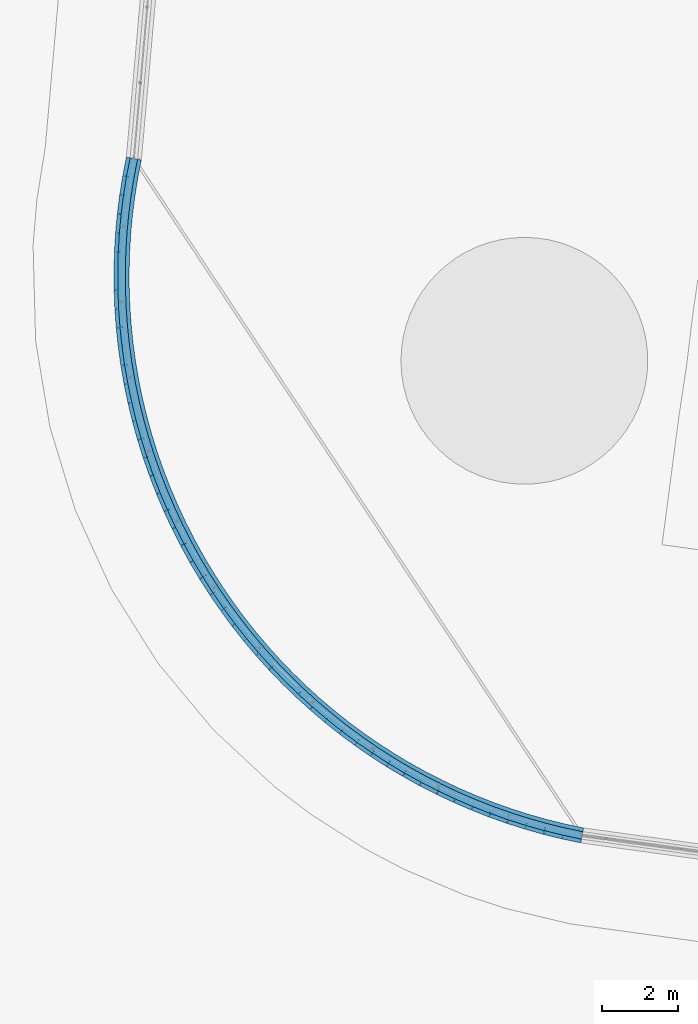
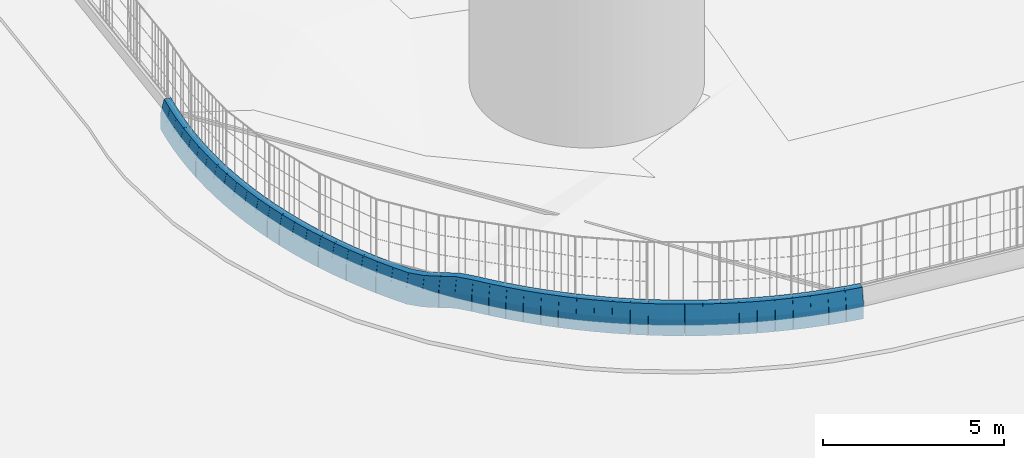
# Not in any storey, part 20 of 75: 1 wall.
"""IFC4 model written with IfcOpenShell, lengths in metres."""

from ifc_helpers import new_model, si_unit, direction, origin, origin_with_axes, place, context, subcontext, project, spatial, triangles, element, save


model = new_model("IFC4")

# Units and contexts
model_context = context("Model", 3, precision=1e-05, world=origin_with_axes(), true_north=direction((0.0, 1.0)))
body_context = subcontext(model_context, "Body", "Model", "MODEL_VIEW")
ifc_project = project(units=[si_unit("AREAUNIT", "SQUARE_METRE"), si_unit("VOLUMEUNIT", "CUBIC_METRE"), si_unit("LENGTHUNIT", "METRE")], contexts=[model_context])

# Site
site_placement = place(None, origin_with_axes())
site = spatial("IfcSite", under=ifc_project, at=site_placement, Name="Parcela industrial Jinhong")

# Wall
wall_placement = place(None, origin())
element("IfcWall", 1, at=wall_placement, inside=site, Name="Basamento de vallado · Curva suroeste", ObjectType="Hormigón prefabricado", PredefinedType="USERDEFINED", context=body_context, shape_type="Tessellation", body=[
    triangles([(6.063662, 19.303614, 0.248939), (5.980727, 18.912307, 0.248939), (5.980727, 18.912307, 0.798939), (6.001461, 19.010133, 1.248939), (6.042928, 19.205787, 1.248939), (6.063662, 19.303614, 0.798939), (5.578613, 19.406417, 0.24913), (5.495678, 19.015109, 0.24913), (5.495678, 19.015109, 0.79913), (5.516412, 19.112936, 1.24913), (5.557879, 19.30859, 1.24913), (5.578613, 19.406417, 0.79913)], [[1, 2, 7], [7, 2, 8], [8, 2, 3], [3, 9, 8], [10, 9, 3], [3, 4, 10], [6, 2, 1], [6, 3, 2], [5, 4, 6], [4, 3, 6], [1, 7, 6], [7, 12, 6], [11, 7, 8], [8, 9, 11], [11, 9, 10], [11, 12, 7], [11, 4, 5], [10, 4, 11], [5, 6, 11], [11, 6, 12]], closed=True),
    triangles([(5.585058, 19.404939, 0.24913), (5.489233, 19.016587, 0.24913), (5.489233, 19.016587, 0.79913), (5.513189, 19.113675, 1.24913), (5.561102, 19.307851, 1.24913), (5.585058, 19.404939, 0.79913), (5.103672, 19.52372, 0.249607), (5.007847, 19.135367, 0.249607), (5.007847, 19.135367, 0.799607), (5.031803, 19.232455, 1.249607), (5.079716, 19.426631, 1.249607), (5.103672, 19.52372, 0.799607)], [[7, 2, 8], [1, 2, 7], [8, 2, 3], [3, 9, 8], [10, 9, 3], [3, 4, 10], [8, 9, 12], [12, 7, 8], [12, 9, 10], [10, 11, 12], [1, 7, 12], [12, 6, 1], [5, 2, 1], [5, 3, 2], [4, 3, 5], [1, 6, 5], [5, 11, 10], [10, 4, 5], [5, 12, 11], [6, 12, 5]], closed=True),
    triangles([(5.110064, 19.52203, 0.249607), (5.001455, 19.137057, 0.249607), (5.001455, 19.137057, 0.799607), (5.028607, 19.2333, 1.249607), (5.082912, 19.425787, 1.249607), (5.110064, 19.52203, 0.799607), (4.632868, 19.656658, 0.25), (4.524258, 19.271685, 0.25), (4.524258, 19.271685, 0.8), (4.551411, 19.367928, 1.25), (4.605715, 19.560414, 1.25), (4.632868, 19.656658, 0.8)], [[7, 2, 8], [1, 2, 7], [8, 2, 9], [2, 3, 9], [9, 3, 4], [9, 4, 10], [6, 3, 2], [6, 2, 1], [4, 3, 6], [6, 5, 4], [4, 5, 11], [10, 4, 11], [12, 7, 8], [8, 9, 12], [12, 9, 10], [10, 11, 12], [1, 7, 12], [12, 6, 1], [5, 6, 12], [12, 11, 5]], closed=True),
    triangles([(4.639201, 19.654757, 0.25), (4.517925, 19.273585, 0.25), (4.517925, 19.273585, 0.8), (4.548244, 19.368878, 1.25), (4.608882, 19.559464, 1.25), (4.639201, 19.654757, 0.8), (4.166715, 19.805086, 0.25), (4.04544, 19.423913, 0.25), (4.04544, 19.423913, 0.8), (4.075759, 19.519206, 1.25), (4.136396, 19.709793, 1.25), (4.166715, 19.805086, 0.8)], [[1, 2, 7], [7, 2, 8], [11, 10, 5], [5, 10, 4], [2, 3, 9], [8, 2, 9], [9, 3, 4], [4, 10, 9], [6, 3, 2], [6, 2, 1], [4, 3, 6], [6, 5, 4], [12, 7, 8], [8, 9, 12], [12, 10, 11], [12, 9, 10], [11, 5, 12], [5, 6, 12], [1, 7, 12], [12, 6, 1]], closed=True),
    triangles([(4.172982, 19.802977, 0.25), (4.039173, 19.426022, 0.25), (4.039173, 19.426022, 0.8), (4.072625, 19.520261, 1.25), (4.13953, 19.708738, 1.25), (4.172982, 19.802977, 0.8), (3.705724, 19.968842, 0.25), (3.571915, 19.591887, 0.25), (3.571915, 19.591887, 0.8), (3.605367, 19.686125, 1.25), (3.672272, 19.874603, 1.25), (3.705724, 19.968842, 0.8)], [[1, 2, 7], [7, 2, 8], [11, 10, 5], [5, 10, 4], [2, 3, 9], [8, 2, 9], [9, 3, 4], [4, 10, 9], [6, 3, 2], [6, 2, 1], [4, 3, 6], [6, 5, 4], [12, 7, 8], [8, 9, 12], [12, 10, 11], [12, 9, 10], [11, 5, 12], [5, 6, 12], [1, 7, 12], [12, 6, 1]], closed=True),
    triangles([(3.711918, 19.966527, 0.25), (3.565721, 19.594201, 0.25), (3.565721, 19.594201, 0.8), (3.60227, 19.687283, 1.25), (3.675369, 19.873445, 1.25), (3.711918, 19.966527, 0.8), (3.250398, 20.147746, 0.25), (3.104201, 19.775421, 0.25), (3.104201, 19.775421, 0.8), (3.14075, 19.868502, 1.25), (3.213849, 20.054665, 1.25), (3.250398, 20.147746, 0.8)], [[1, 2, 7], [7, 2, 8], [11, 10, 5], [5, 10, 4], [2, 3, 9], [8, 2, 9], [9, 3, 4], [4, 10, 9], [12, 7, 8], [8, 9, 12], [12, 10, 11], [12, 9, 10], [6, 3, 2], [6, 2, 1], [4, 3, 6], [6, 5, 4], [1, 7, 6], [7, 12, 6], [11, 5, 6], [6, 12, 11]], closed=True),
    triangles([(3.256512, 20.145228, 0.25), (3.098087, 19.777939, 0.25), (3.098087, 19.777939, 0.8), (3.137694, 19.869761, 1.25), (3.216906, 20.053406, 1.25), (3.256512, 20.145228, 0.8), (2.801234, 20.341605, 0.25), (2.64281, 19.974315, 0.25), (2.64281, 19.974315, 0.8), (2.682416, 20.066137, 1.25), (2.761628, 20.249782, 1.25), (2.801234, 20.341605, 0.8)], [[1, 2, 7], [7, 2, 8], [11, 10, 5], [5, 10, 4], [2, 3, 9], [8, 2, 9], [9, 3, 4], [4, 10, 9], [12, 7, 8], [8, 9, 12], [12, 10, 11], [12, 9, 10], [6, 3, 2], [6, 2, 1], [4, 3, 6], [6, 5, 4], [1, 7, 6], [7, 12, 6], [11, 5, 6], [6, 12, 11]], closed=True),
    triangles([(2.807262, 20.338886, 0.25), (2.636783, 19.977034, 0.25), (2.636783, 19.977034, 0.8), (2.679403, 20.067497, 1.25), (2.764642, 20.248423, 1.25), (2.807262, 20.338886, 0.8), (2.358724, 20.550204, 0.25), (2.188246, 20.188352, 0.25), (2.188246, 20.188352, 0.8), (2.230865, 20.278815, 1.25), (2.316105, 20.459741, 1.25), (2.358724, 20.550204, 0.8)], [[1, 2, 7], [7, 2, 8], [11, 10, 5], [5, 10, 4], [2, 3, 9], [8, 2, 9], [9, 3, 4], [4, 10, 9], [12, 7, 8], [8, 9, 12], [12, 10, 11], [12, 9, 10], [6, 3, 2], [6, 2, 1], [4, 3, 6], [6, 5, 4], [1, 7, 6], [7, 12, 6], [11, 5, 6], [6, 12, 11]], closed=True),
    triangles([(2.364658, 20.547288, 0.25), (2.182312, 20.191269, 0.25), (2.182312, 20.191269, 0.8), (2.227898, 20.280273, 1.25), (2.319072, 20.458283, 1.25), (2.364658, 20.547288, 0.8), (1.923352, 20.773317, 0.25), (1.741005, 20.417298, 0.25), (1.741005, 20.417298, 0.8), (1.786591, 20.506303, 1.25), (1.877765, 20.684313, 1.25), (1.923352, 20.773317, 0.8)], [[1, 2, 7], [7, 2, 8], [11, 10, 5], [5, 10, 4], [2, 3, 9], [8, 2, 9], [9, 3, 4], [4, 10, 9], [6, 3, 2], [6, 2, 1], [4, 3, 6], [6, 5, 4], [12, 7, 8], [8, 9, 12], [12, 10, 11], [12, 9, 10], [11, 5, 12], [5, 6, 12], [1, 7, 12], [12, 6, 1]], closed=True),
    triangles([(1.929186, 20.770206, 0.25), (1.73517, 20.420409, 0.25), (1.73517, 20.420409, 0.8), (1.783674, 20.507859, 1.25), (1.880682, 20.682757, 1.25), (1.929186, 20.770206, 0.8), (1.495592, 21.0107, 0.25), (1.301576, 20.660903, 0.25), (1.301576, 20.660903, 0.8), (1.35008, 20.748353, 1.25), (1.447088, 20.923251, 1.25), (1.495592, 21.0107, 0.8)], [[1, 2, 7], [7, 2, 8], [8, 2, 9], [2, 3, 9], [10, 9, 4], [4, 9, 3], [6, 2, 1], [5, 4, 6], [6, 3, 2], [6, 4, 3], [1, 7, 6], [7, 12, 6], [11, 7, 8], [8, 9, 11], [11, 12, 7], [11, 9, 10], [11, 4, 5], [10, 4, 11], [5, 6, 11], [11, 6, 12]], closed=True),
    triangles([(1.50132, 21.007398, 0.25), (1.295848, 20.664206, 0.25), (1.295848, 20.664206, 0.8), (1.347216, 20.750004, 1.25), (1.449952, 20.9216, 1.25), (1.50132, 21.007398, 0.8), (1.075913, 21.262093, 0.25), (0.870441, 20.918901, 0.25), (0.870441, 20.918901, 0.8), (0.921809, 21.004699, 1.25), (1.024545, 21.176295, 1.25), (1.075913, 21.262093, 0.8)], [[1, 2, 7], [7, 2, 8], [11, 10, 5], [5, 10, 4], [2, 3, 9], [8, 2, 9], [9, 3, 4], [4, 10, 9], [12, 7, 8], [8, 9, 12], [12, 10, 11], [12, 9, 10], [6, 3, 2], [6, 2, 1], [4, 3, 6], [6, 5, 4], [1, 7, 6], [7, 12, 6], [11, 5, 6], [6, 12, 11]], closed=True),
    triangles([(1.081529, 21.258604, 0.25), (0.864824, 20.922391, 0.25), (0.864824, 20.922391, 0.8), (0.919001, 21.006444, 1.25), (1.027353, 21.17455, 1.25), (1.081529, 21.258604, 0.8), (0.664773, 21.527222, 0.25), (0.448069, 21.191009, 0.25), (0.448069, 21.191009, 0.8), (0.502245, 21.275062, 1.25), (0.610597, 21.443168, 1.25), (0.664773, 21.527222, 0.8)], [[2, 7, 1], [8, 7, 2], [4, 5, 11], [11, 10, 4], [1, 6, 3], [3, 2, 1], [3, 5, 4], [3, 6, 5], [10, 9, 3], [4, 10, 3], [8, 2, 3], [3, 9, 8], [12, 7, 8], [8, 9, 12], [12, 9, 10], [10, 11, 12], [1, 7, 12], [12, 6, 1], [5, 6, 12], [12, 11, 5]], closed=True),
    triangles([(0.670271, 21.523548, 0.25), (0.442571, 21.194682, 0.25), (0.442571, 21.194682, 0.8), (0.499496, 21.276899, 1.25), (0.613346, 21.441332, 1.25), (0.670271, 21.523548, 0.8), (0.262622, 21.805796, 0.25), (0.034922, 21.47693, 0.25), (0.034922, 21.47693, 0.8), (0.091847, 21.559146, 1.25), (0.205697, 21.723579, 1.25), (0.262622, 21.805796, 0.8)], [[1, 2, 7], [7, 2, 8], [11, 10, 5], [5, 10, 4], [2, 3, 9], [8, 2, 9], [9, 3, 4], [4, 10, 9], [6, 3, 2], [6, 2, 1], [4, 3, 6], [6, 5, 4], [12, 7, 8], [8, 9, 12], [12, 10, 11], [12, 9, 10], [11, 5, 12], [5, 6, 12], [1, 7, 12], [12, 6, 1]], closed=True),
    triangles([(0.267996, 21.801943, 0.25), (0.029549, 21.480783, 0.25), (0.029549, 21.480783, 0.8), (0.089161, 21.561073, 1.25), (0.208384, 21.721653, 1.25), (0.267996, 21.801943, 0.8), (-0.1301, 22.097511, 0.25), (-0.368547, 21.776352, 0.25), (-0.368547, 21.776352, 0.8), (-0.308935, 21.856641, 1.25), (-0.189712, 22.017221, 1.25), (-0.1301, 22.097511, 0.8)], [[1, 2, 7], [7, 2, 8], [11, 10, 5], [5, 10, 4], [2, 3, 9], [8, 2, 9], [9, 3, 4], [4, 10, 9], [12, 7, 8], [8, 9, 12], [12, 10, 11], [12, 9, 10], [6, 3, 2], [6, 2, 1], [4, 3, 6], [6, 5, 4], [1, 7, 6], [7, 12, 6], [11, 5, 6], [6, 12, 11]], closed=True),
    triangles([(-0.124858, 22.093482, 0.25), (-0.37379, 21.78038, 0.25), (-0.37379, 21.78038, 0.8), (-0.311557, 21.858656, 1.25), (-0.187091, 22.015207, 1.25), (-0.124858, 22.093482, 0.8), (-0.512966, 22.402048, 0.25), (-0.761898, 22.088947, 0.25), (-0.761898, 22.088947, 0.8), (-0.699665, 22.167222, 1.25), (-0.575199, 22.323773, 1.25), (-0.512966, 22.402048, 0.8)], [[1, 2, 7], [7, 2, 8], [8, 2, 9], [2, 3, 9], [10, 9, 4], [4, 9, 3], [6, 2, 1], [5, 4, 6], [6, 3, 2], [6, 4, 3], [1, 7, 6], [7, 12, 6], [11, 7, 8], [8, 9, 11], [11, 12, 7], [11, 9, 10], [11, 4, 5], [10, 4, 11], [5, 6, 11], [11, 6, 12]], closed=True),
    triangles([(-0.507859, 22.397849, 0.25), (-0.767005, 22.093147, 0.25), (-0.767005, 22.093147, 0.8), (-0.702218, 22.169322, 1.25), (-0.572645, 22.321673, 1.25), (-0.507859, 22.397849, 0.8), (-0.885555, 22.719075, 0.25), (-1.144701, 22.414373, 0.25), (-1.144701, 22.414373, 0.8), (-1.079915, 22.490549, 1.25), (-0.950342, 22.6429, 1.25), (-0.885555, 22.719075, 0.8)], [[1, 2, 7], [7, 2, 8], [11, 10, 5], [5, 10, 4], [2, 3, 9], [8, 2, 9], [9, 3, 4], [4, 10, 9], [6, 3, 2], [6, 2, 1], [4, 3, 6], [6, 5, 4], [12, 7, 8], [8, 9, 12], [12, 10, 11], [12, 9, 10], [11, 5, 12], [5, 6, 12], [1, 7, 12], [12, 6, 1]], closed=True),
    triangles([(-0.88059, 22.714709, 0.25), (-1.149666, 22.41874, 0.25), (-1.149666, 22.41874, 0.8), (-1.082397, 22.492732, 1.25), (-0.947859, 22.640717, 1.25), (-0.88059, 22.714709, 0.8), (-1.247461, 23.048245, 0.25), (-1.516538, 22.752276, 0.25), (-1.516538, 22.752276, 0.8), (-1.449269, 22.826268, 1.25), (-1.31473, 22.974253, 1.25), (-1.247461, 23.048245, 0.8)], [[1, 2, 7], [7, 2, 8], [11, 10, 5], [5, 10, 4], [2, 3, 9], [8, 2, 9], [9, 3, 4], [4, 10, 9], [12, 7, 8], [8, 9, 12], [12, 10, 11], [12, 9, 10], [6, 3, 2], [6, 2, 1], [4, 3, 6], [6, 5, 4], [1, 7, 6], [7, 12, 6], [11, 5, 6], [6, 12, 11]], closed=True),
    triangles([(-1.242643, 23.043717, 0.25), (-1.521356, 22.756804, 0.25), (-1.521356, 22.756804, 0.8), (-1.451678, 22.828532, 1.25), (-1.312321, 22.971989, 1.25), (-1.242643, 23.043717, 0.8), (-1.598289, 23.389198, 0.25), (-1.877002, 23.102285, 0.25), (-1.877002, 23.102285, 0.8), (-1.807323, 23.174014, 1.25), (-1.667967, 23.31747, 1.25), (-1.598289, 23.389198, 0.8)], [[1, 2, 7], [7, 2, 8], [11, 10, 5], [5, 10, 4], [2, 3, 9], [8, 2, 9], [9, 3, 4], [4, 10, 9], [12, 7, 8], [8, 9, 12], [12, 10, 11], [12, 9, 10], [6, 3, 2], [6, 2, 1], [4, 3, 6], [6, 5, 4], [1, 7, 6], [7, 12, 6], [11, 5, 6], [6, 12, 11]], closed=True),
    triangles([(-1.593623, 23.384514, 0.25), (-1.881668, 23.10697, 0.25), (-1.881668, 23.10697, 0.8), (-1.809656, 23.176356, 1.25), (-1.665634, 23.315128, 1.25), (-1.593623, 23.384514, 0.8), (-1.937654, 23.741562, 0.25), (-2.225699, 23.464019, 0.25), (-2.225699, 23.464019, 0.8), (-2.153688, 23.533405, 1.25), (-2.009665, 23.672176, 1.25), (-1.937654, 23.741562, 0.8)], [[1, 2, 7], [7, 2, 8], [11, 10, 5], [5, 10, 4], [2, 3, 9], [8, 2, 9], [9, 3, 4], [4, 10, 9], [6, 3, 2], [6, 2, 1], [4, 3, 6], [6, 5, 4], [12, 7, 8], [8, 9, 12], [12, 10, 11], [12, 9, 10], [11, 5, 12], [5, 6, 12], [1, 7, 12], [12, 6, 1]], closed=True),
    triangles([(-1.933146, 23.736725, 0.25), (-2.230207, 23.468856, 0.25), (-2.230207, 23.468856, 0.8), (-2.155942, 23.535823, 1.25), (-2.007411, 23.669758, 1.25), (-1.933146, 23.736725, 0.8), (-2.265186, 24.104951, 0.25), (-2.562248, 23.837081, 0.25), (-2.562248, 23.837081, 0.8), (-2.487982, 23.904049, 1.25), (-2.339452, 24.037984, 1.25), (-2.265186, 24.104951, 0.8)], [[1, 2, 7], [7, 2, 8], [11, 10, 5], [5, 10, 4], [2, 3, 9], [8, 2, 9], [9, 3, 4], [4, 10, 9], [12, 7, 8], [8, 9, 12], [12, 10, 11], [12, 9, 10], [6, 3, 2], [6, 2, 1], [4, 3, 6], [6, 5, 4], [1, 7, 6], [7, 12, 6], [11, 5, 6], [6, 12, 11]], closed=True),
    triangles([(-2.26084, 24.099968, 0.25), (-2.566594, 23.842064, 0.25), (-2.566594, 23.842064, 0.8), (-2.490156, 23.90654, 1.25), (-2.337279, 24.035492, 1.25), (-2.26084, 24.099968, 0.8), (-2.580527, 24.478968, 0.25), (-2.886281, 24.221064, 0.25), (-2.886281, 24.221064, 0.8), (-2.809843, 24.28554, 1.25), (-2.656966, 24.414492, 1.25), (-2.580527, 24.478968, 0.8)], [[1, 2, 7], [7, 2, 8], [11, 10, 5], [5, 10, 4], [2, 3, 9], [8, 2, 9], [9, 3, 4], [4, 10, 9], [6, 3, 2], [6, 2, 1], [4, 3, 6], [6, 5, 4], [12, 7, 8], [8, 9, 12], [12, 10, 11], [12, 9, 10], [11, 5, 12], [5, 6, 12], [1, 7, 12], [12, 6, 1]], closed=True),
    triangles([(-2.576348, 24.473844, 0.25), (-2.89046, 24.226188, 0.25), (-2.89046, 24.226188, 0.8), (-2.811932, 24.288102, 1.25), (-2.654876, 24.41193, 1.25), (-2.576348, 24.473844, 0.8), (-2.883333, 24.863205, 0.25), (-3.197445, 24.615549, 0.25), (-3.197445, 24.615549, 0.8), (-3.118917, 24.677463, 1.25), (-2.961861, 24.801291, 1.25), (-2.883333, 24.863205, 0.8)], [[1, 2, 7], [7, 2, 8], [11, 10, 5], [5, 10, 4], [2, 3, 9], [8, 2, 9], [9, 3, 4], [4, 10, 9], [6, 3, 2], [6, 2, 1], [4, 3, 6], [6, 5, 4], [12, 7, 8], [8, 9, 12], [12, 10, 11], [12, 9, 10], [11, 5, 12], [5, 6, 12], [1, 7, 12], [12, 6, 1]], closed=True),
    triangles([(-2.879325, 24.857946, 0.25), (-3.201452, 24.620808, 0.25), (-3.201452, 24.620808, 0.8), (-3.12092, 24.680093, 1.25), (-2.959857, 24.798661, 1.25), (-2.879325, 24.857946, 0.8), (-3.173271, 25.257241, 0.217302), (-3.495398, 25.020104, 0.217302), (-3.495398, 25.020104, 0.767302), (-3.414866, 25.079388, 1.217302), (-3.253803, 25.197957, 1.217302), (-3.173271, 25.257241, 0.767302)], [[1, 2, 7], [7, 2, 8], [11, 10, 5], [5, 10, 4], [2, 3, 9], [8, 2, 9], [9, 3, 4], [4, 10, 9], [6, 3, 2], [6, 2, 1], [4, 3, 6], [6, 5, 4], [12, 7, 8], [8, 9, 12], [12, 10, 11], [12, 9, 10], [11, 5, 12], [5, 6, 12], [1, 7, 12], [12, 6, 1]], closed=True),
    triangles([(-3.16944, 25.251852, 0.217302), (-3.49923, 25.025493, 0.217302), (-3.49923, 25.025493, 0.767302), (-3.416782, 25.082082, 1.217302), (-3.251887, 25.195262, 1.217302), (-3.16944, 25.251852, 0.767302), (-3.450026, 25.660646, 0.082406), (-3.779816, 25.434286, 0.082406), (-3.779816, 25.434286, 0.632406), (-3.697369, 25.490876, 1.082406), (-3.532474, 25.604056, 1.082406), (-3.450026, 25.660646, 0.632406)], [[1, 2, 7], [7, 2, 8], [11, 10, 5], [5, 10, 4], [2, 3, 9], [8, 2, 9], [9, 3, 4], [4, 10, 9], [12, 7, 8], [8, 9, 12], [12, 10, 11], [12, 9, 10], [6, 3, 2], [6, 2, 1], [4, 3, 6], [6, 5, 4], [1, 7, 6], [7, 12, 6], [11, 5, 6], [6, 12, 11]], closed=True),
    triangles([(-3.446375, 25.655134, 0.082406), (-3.783467, 25.439799, 0.082406), (-3.783467, 25.439799, 0.632406), (-3.699194, 25.493633, 1.082406), (-3.530648, 25.6013, 1.082406), (-3.446375, 25.655134, 0.632406), (-3.713295, 26.072979, -0.052445), (-4.050387, 25.857644, -0.052445), (-4.050387, 25.857644, 0.497555), (-3.966114, 25.911478, 0.947555), (-3.797568, 26.019145, 0.947555), (-3.713295, 26.072979, 0.497555)], [[1, 2, 7], [7, 2, 8], [11, 10, 5], [5, 10, 4], [2, 3, 9], [8, 2, 9], [9, 3, 4], [4, 10, 9], [12, 7, 8], [8, 9, 12], [12, 10, 11], [12, 9, 10], [6, 3, 2], [6, 2, 1], [4, 3, 6], [6, 5, 4], [1, 7, 6], [7, 12, 6], [11, 5, 6], [6, 12, 11]], closed=True),
    triangles([(-3.709828, 26.067349, -0.052445), (-4.053854, 25.863275, -0.052445), (-4.053854, 25.863275, 0.497555), (-3.967848, 25.914293, 0.947555), (-3.795835, 26.01633, 0.947555), (-3.709828, 26.067349, 0.497555), (-3.96279, 26.493789, -0.13), (-4.306816, 26.289715, -0.13), (-4.306816, 26.289715, 0.42), (-4.22081, 26.340733, 0.87), (-4.048797, 26.442771, 0.87), (-3.96279, 26.493789, 0.42)], [[1, 2, 7], [7, 2, 8], [11, 10, 5], [5, 10, 4], [2, 3, 9], [8, 2, 9], [9, 3, 4], [4, 10, 9], [6, 3, 2], [6, 2, 1], [4, 3, 6], [6, 5, 4], [12, 7, 8], [8, 9, 12], [12, 10, 11], [12, 9, 10], [11, 5, 12], [5, 6, 12], [1, 7, 12], [12, 6, 1]], closed=True),
    triangles([(-3.959512, 26.488047, -0.13), (-4.310095, 26.295457, -0.13), (-4.310095, 26.295457, 0.42), (-4.222449, 26.343604, 0.87), (-4.047157, 26.4399, 0.87), (-3.959512, 26.488047, 0.42), (-4.198239, 26.922616, -0.13), (-4.548823, 26.730026, -0.13), (-4.548823, 26.730026, 0.42), (-4.461177, 26.778173, 0.87), (-4.285885, 26.874469, 0.87), (-4.198239, 26.922616, 0.42)], [[7, 2, 8], [1, 2, 7], [8, 2, 9], [2, 3, 9], [9, 3, 4], [9, 4, 10], [6, 3, 2], [6, 2, 1], [4, 3, 6], [6, 5, 4], [4, 5, 11], [10, 4, 11], [12, 7, 8], [8, 9, 12], [12, 9, 10], [10, 11, 12], [1, 7, 12], [12, 6, 1], [5, 6, 12], [12, 11, 5]], closed=True),
    triangles([(-4.195152, 26.916769, -0.13), (-4.55191, 26.735873, -0.13), (-4.55191, 26.735873, 0.42), (-4.46272, 26.781097, 0.87), (-4.284341, 26.871545, 0.87), (-4.195152, 26.916769, 0.42), (-4.419384, 27.358992, -0.13), (-4.776142, 27.178096, -0.13), (-4.776142, 27.178096, 0.42), (-4.686952, 27.22332, 0.87), (-4.508573, 27.313768, 0.87), (-4.419384, 27.358992, 0.42)], [[1, 2, 7], [7, 2, 8], [11, 10, 5], [5, 10, 4], [2, 3, 9], [8, 2, 9], [9, 3, 4], [4, 10, 9], [6, 3, 2], [6, 2, 1], [4, 3, 6], [6, 5, 4], [12, 7, 8], [8, 9, 12], [12, 10, 11], [12, 9, 10], [11, 5, 12], [5, 6, 12], [1, 7, 12], [12, 6, 1]], closed=True),
    triangles([(-4.416491, 27.353046, -0.13), (-4.779034, 27.184042, -0.13), (-4.779034, 27.184042, 0.42), (-4.688399, 27.226293, 0.87), (-4.507127, 27.310795, 0.87), (-4.416491, 27.353046, 0.42), (-4.625983, 27.80244, -0.13), (-4.988526, 27.633435, -0.13), (-4.988526, 27.633435, 0.42), (-4.89789, 27.675686, 0.87), (-4.716619, 27.760189, 0.87), (-4.625983, 27.80244, 0.42)], [[7, 2, 8], [1, 2, 7], [8, 2, 3], [3, 9, 8], [10, 9, 3], [3, 4, 10], [8, 9, 12], [12, 7, 8], [12, 9, 10], [10, 11, 12], [1, 7, 12], [12, 6, 1], [5, 2, 1], [5, 3, 2], [4, 3, 5], [1, 6, 5], [5, 11, 10], [10, 4, 5], [5, 12, 11], [6, 12, 5]], closed=True),
    triangles([(-4.623289, 27.796402, -0.13), (-4.99122, 27.639473, -0.13), (-4.99122, 27.639473, 0.42), (-4.899237, 27.678705, 0.87), (-4.715272, 27.757169, 0.87), (-4.623289, 27.796402, 0.42), (-4.817811, 28.252474, -0.13), (-5.185742, 28.095546, -0.13), (-5.185742, 28.095546, 0.42), (-5.093759, 28.134778, 0.87), (-4.909794, 28.213242, 0.87), (-4.817811, 28.252474, 0.42)], [[1, 2, 7], [7, 2, 8], [11, 10, 5], [5, 10, 4], [2, 3, 9], [8, 2, 9], [9, 3, 4], [4, 10, 9], [12, 7, 8], [8, 9, 12], [12, 10, 11], [12, 9, 10], [6, 3, 2], [6, 2, 1], [4, 3, 6], [6, 5, 4], [1, 7, 6], [7, 12, 6], [11, 5, 6], [6, 12, 11]], closed=True),
    triangles([(-4.815318, 28.24635, -0.13), (-5.188235, 28.10167, -0.13), (-5.188235, 28.10167, 0.42), (-5.095006, 28.13784, 0.87), (-4.908547, 28.21018, 0.87), (-4.815318, 28.24635, 0.42), (-4.994658, 28.708604, -0.13), (-5.367575, 28.563923, -0.13), (-5.367575, 28.563923, 0.42), (-5.274346, 28.600093, 0.87), (-5.087887, 28.672434, 0.87), (-4.994658, 28.708604, 0.42)], [[1, 2, 7], [7, 2, 8], [11, 10, 5], [5, 10, 4], [2, 3, 9], [8, 2, 9], [9, 3, 4], [4, 10, 9], [12, 7, 8], [8, 9, 12], [12, 10, 11], [12, 9, 10], [6, 3, 2], [6, 2, 1], [4, 3, 6], [6, 5, 4], [1, 7, 6], [7, 12, 6], [11, 5, 6], [6, 12, 11]], closed=True),
    triangles([(-4.992368, 28.702401, -0.13), (-5.369865, 28.570126, -0.13), (-5.369865, 28.570126, 0.42), (-5.27549, 28.603195, 0.87), (-5.086742, 28.669332, 0.87), (-4.992368, 28.702401, 0.42), (-5.15633, 29.17033, -0.13), (-5.533826, 29.038056, -0.13), (-5.533826, 29.038056, 0.42), (-5.439452, 29.071124, 0.87), (-5.250704, 29.137261, 0.87), (-5.15633, 29.17033, 0.42)], [[7, 2, 8], [1, 2, 7], [8, 2, 3], [3, 9, 8], [10, 9, 3], [3, 4, 10], [8, 9, 12], [12, 7, 8], [12, 9, 10], [10, 11, 12], [1, 7, 12], [12, 6, 1], [5, 2, 1], [5, 3, 2], [4, 3, 5], [1, 6, 5], [5, 11, 10], [10, 4, 5], [5, 12, 11], [6, 12, 5]], closed=True),
    triangles([(-5.154247, 29.164054, -0.13), (-5.535909, 29.044331, -0.13), (-5.535909, 29.044331, 0.42), (-5.440494, 29.074262, 0.87), (-5.249663, 29.134124, 0.87), (-5.154247, 29.164054, 0.42), (-5.302651, 29.637148, -0.13), (-5.684314, 29.517424, -0.13), (-5.684314, 29.517424, 0.42), (-5.588898, 29.547355, 0.87), (-5.398067, 29.607217, 0.87), (-5.302651, 29.637148, 0.42)], [[1, 2, 7], [7, 2, 8], [11, 10, 5], [5, 10, 4], [2, 3, 9], [8, 2, 9], [9, 3, 4], [4, 10, 9], [6, 3, 2], [6, 2, 1], [4, 3, 6], [6, 5, 4], [12, 7, 8], [8, 9, 12], [12, 10, 11], [12, 9, 10], [11, 5, 12], [5, 6, 12], [1, 7, 12], [12, 6, 1]], closed=True),
    triangles([(-5.300777, 29.630807, -0.13), (-5.686188, 29.523765, -0.13), (-5.686188, 29.523765, 0.42), (-5.589835, 29.550525, 0.87), (-5.39713, 29.604046, 0.87), (-5.300777, 29.630807, 0.42), (-5.433462, 30.108547, -0.13), (-5.818873, 30.001505, -0.13), (-5.818873, 30.001505, 0.42), (-5.72252, 30.028266, 0.87), (-5.529815, 30.081787, 0.87), (-5.433462, 30.108547, 0.42)], [[1, 2, 7], [7, 2, 8], [11, 10, 5], [5, 10, 4], [2, 3, 9], [8, 2, 9], [9, 3, 4], [4, 10, 9], [12, 7, 8], [8, 9, 12], [12, 10, 11], [12, 9, 10], [6, 3, 2], [6, 2, 1], [4, 3, 6], [6, 5, 4], [1, 7, 6], [7, 12, 6], [11, 5, 6], [6, 12, 11]], closed=True),
    triangles([(-5.431798, 30.102148, -0.13), (-5.820537, 30.007905, -0.13), (-5.820537, 30.007905, 0.42), (-5.723352, 30.031465, 0.87), (-5.528983, 30.078587, 0.87), (-5.431798, 30.102148, 0.42), (-5.548618, 30.584013, -0.13), (-5.937357, 30.48977, -0.13), (-5.937357, 30.48977, 0.42), (-5.840173, 30.513331, 0.87), (-5.645803, 30.560452, 0.87), (-5.548618, 30.584013, 0.42)], [[1, 2, 7], [7, 2, 8], [11, 10, 5], [5, 10, 4], [2, 3, 9], [8, 2, 9], [9, 3, 4], [4, 10, 9], [6, 3, 2], [6, 2, 1], [4, 3, 6], [6, 5, 4], [12, 7, 8], [8, 9, 12], [12, 10, 11], [12, 9, 10], [11, 5, 12], [5, 6, 12], [1, 7, 12], [12, 6, 1]], closed=True),
    triangles([(-5.547167, 30.577563, -0.13), (-5.938809, 30.496221, -0.13), (-5.938809, 30.496221, 0.42), (-5.840898, 30.516556, 0.87), (-5.645077, 30.557227, 0.87), (-5.547167, 30.577563, 0.42), (-5.647995, 31.063026, -0.13), (-6.039637, 30.981684, -0.13), (-6.039637, 30.981684, 0.42), (-5.941726, 31.00202, 0.87), (-5.745905, 31.042691, 0.87), (-5.647995, 31.063026, 0.42)], [[7, 2, 8], [1, 2, 7], [8, 2, 3], [3, 9, 8], [10, 9, 3], [3, 4, 10], [8, 9, 12], [12, 7, 8], [12, 9, 10], [10, 11, 12], [5, 11, 10], [10, 4, 5], [6, 2, 1], [6, 3, 2], [4, 3, 6], [6, 5, 4], [1, 7, 6], [7, 12, 6], [6, 12, 11], [11, 5, 6]], closed=True),
    triangles([(-5.646757, 31.056531, -0.13), (-6.040874, 30.988179, -0.13), (-6.040874, 30.988179, 0.42), (-5.942345, 31.005267, 0.87), (-5.745287, 31.039443, 0.87), (-5.646757, 31.056531, 0.42), (-5.731483, 31.545062, -0.13), (-6.1256, 31.476711, -0.13), (-6.1256, 31.476711, 0.42), (-6.027071, 31.493798, 0.87), (-5.830012, 31.527974, 0.87), (-5.731483, 31.545062, 0.42)], [[1, 2, 7], [7, 2, 8], [11, 10, 5], [5, 10, 4], [2, 3, 9], [8, 2, 9], [9, 3, 4], [4, 10, 9], [6, 3, 2], [6, 2, 1], [4, 3, 6], [6, 5, 4], [12, 7, 8], [8, 9, 12], [12, 10, 11], [12, 9, 10], [11, 5, 12], [5, 6, 12], [1, 7, 12], [12, 6, 1]], closed=True),
    triangles([(-5.730461, 31.538529, -0.13), (-6.126622, 31.483243, -0.13), (-6.126622, 31.483243, 0.42), (-6.027582, 31.497065, 0.87), (-5.829501, 31.524708, 0.87), (-5.730461, 31.538529, 0.42), (-5.798992, 32.029594, -0.13), (-6.195153, 31.974308, -0.13), (-6.195153, 31.974308, 0.42), (-6.096112, 31.98813, 0.87), (-5.898032, 32.015773, 0.87), (-5.798992, 32.029594, 0.42)], [[1, 2, 7], [7, 2, 8], [8, 2, 9], [2, 3, 9], [10, 9, 4], [4, 9, 3], [6, 2, 1], [5, 4, 6], [6, 3, 2], [6, 4, 3], [1, 7, 6], [7, 12, 6], [11, 7, 8], [8, 9, 11], [11, 12, 7], [11, 9, 10], [11, 4, 5], [10, 4, 11], [5, 6, 11], [11, 6, 12]], closed=True),
    triangles([(-5.798186, 32.023031, -0.13), (-6.195958, 31.980871, -0.13), (-6.195958, 31.980871, 0.42), (-6.096515, 31.991411, 0.87), (-5.897629, 32.012491, 0.87), (-5.798186, 32.023031, 0.42), (-5.850447, 32.516093, -0.13), (-6.248219, 32.473933, -0.13), (-6.248219, 32.473933, 0.42), (-6.148776, 32.484473, 0.87), (-5.94989, 32.505553, 0.87), (-5.850447, 32.516093, 0.42)], [[1, 2, 7], [7, 2, 8], [11, 10, 5], [5, 10, 4], [2, 3, 9], [8, 2, 9], [9, 3, 4], [4, 10, 9], [6, 3, 2], [6, 2, 1], [4, 3, 6], [6, 5, 4], [12, 7, 8], [8, 9, 12], [12, 10, 11], [12, 9, 10], [11, 5, 12], [5, 6, 12], [1, 7, 12], [12, 6, 1]], closed=True),
    triangles([(-5.849859, 32.509507, -0.13), (-6.248807, 32.480518, -0.13), (-6.248807, 32.480518, 0.42), (-6.14907, 32.487766, 0.87), (-5.949596, 32.50226, 0.87), (-5.849859, 32.509507, 0.42), (-5.885792, 33.004027, -0.13), (-6.28474, 32.975038, -0.13), (-6.28474, 32.975038, 0.42), (-6.185003, 32.982286, 0.87), (-5.985529, 32.99678, 0.87), (-5.885792, 33.004027, 0.42)], [[1, 2, 7], [7, 2, 8], [11, 10, 5], [5, 10, 4], [2, 3, 9], [8, 2, 9], [9, 3, 4], [4, 10, 9], [12, 7, 8], [8, 9, 12], [12, 10, 11], [12, 9, 10], [6, 3, 2], [6, 2, 1], [4, 3, 6], [6, 5, 4], [1, 7, 6], [7, 12, 6], [11, 5, 6], [6, 12, 11]], closed=True),
    triangles([(-5.885422, 32.997426, -0.13), (-6.28511, 32.98164, -0.13), (-6.28511, 32.98164, 0.42), (-6.185188, 32.985586, 0.87), (-5.985344, 32.993479, 0.87), (-5.885422, 32.997426, 0.42), (-5.904989, 33.492863, -0.13), (-6.304678, 33.477077, -0.13), (-6.304678, 33.477077, 0.42), (-6.204756, 33.481024, 0.87), (-6.004911, 33.488917, 0.87), (-5.904989, 33.492863, 0.42)], [[1, 2, 7], [7, 2, 8], [8, 2, 3], [3, 9, 8], [10, 9, 3], [3, 4, 10], [6, 2, 1], [6, 3, 2], [5, 4, 6], [4, 3, 6], [1, 7, 6], [7, 12, 6], [11, 7, 8], [8, 9, 11], [11, 9, 10], [11, 12, 7], [11, 4, 5], [10, 4, 11], [5, 6, 11], [11, 6, 12]], closed=True),
    triangles([(-5.904838, 33.486253, -0.13), (-6.304829, 33.483688, -0.13), (-6.304829, 33.483688, 0.42), (-6.204831, 33.484329, 0.87), (-6.004836, 33.485611, 0.87), (-5.904838, 33.486253, 0.42), (-5.908017, 33.982066, -0.13), (-6.308009, 33.979501, -0.13), (-6.308009, 33.979501, 0.42), (-6.208011, 33.980142, 0.87), (-6.008015, 33.981425, 0.87), (-5.908017, 33.982066, 0.42)], [[1, 2, 7], [7, 2, 8], [11, 10, 5], [5, 10, 4], [2, 3, 9], [8, 2, 9], [9, 3, 4], [4, 10, 9], [6, 3, 2], [6, 2, 1], [4, 3, 6], [6, 5, 4], [12, 7, 8], [8, 9, 12], [12, 10, 11], [12, 9, 10], [11, 5, 12], [5, 6, 12], [1, 7, 12], [12, 6, 1]], closed=True),
    triangles([(-5.908084, 33.975454, -0.13), (-6.307942, 33.986113, -0.13), (-6.307942, 33.986113, 0.42), (-6.207977, 33.983448, 0.87), (-6.008048, 33.978119, 0.87), (-5.908084, 33.975454, 0.42), (-5.894872, 34.471102, -0.13), (-6.29473, 34.481761, -0.13), (-6.29473, 34.481761, 0.42), (-6.194766, 34.479096, 0.87), (-5.994837, 34.473767, 0.87), (-5.894872, 34.471102, 0.42)], [[7, 1, 8], [8, 1, 2], [10, 4, 11], [11, 4, 5], [2, 1, 3], [1, 6, 3], [5, 4, 3], [3, 6, 5], [12, 1, 7], [12, 6, 1], [5, 6, 12], [12, 11, 5], [7, 8, 9], [9, 12, 7], [10, 11, 9], [11, 12, 9], [9, 4, 10], [9, 3, 4], [9, 8, 2], [2, 3, 9]], closed=True),
    triangles([(-5.895158, 34.464496, -0.13), (-6.294445, 34.488366, -0.13), (-6.294445, 34.488366, 0.42), (-6.194623, 34.482399, 0.87), (-5.994979, 34.470464, 0.87), (-5.895158, 34.464496, 0.42), (-5.865569, 34.959436, -0.13), (-6.264856, 34.983306, -0.13), (-6.264856, 34.983306, 0.42), (-6.165035, 34.977339, 0.87), (-5.965391, 34.965404, 0.87), (-5.865569, 34.959436, 0.42)], [[8, 1, 2], [7, 1, 8], [3, 8, 2], [9, 8, 3], [6, 3, 2], [2, 1, 6], [6, 5, 4], [4, 3, 6], [10, 3, 4], [9, 3, 10], [12, 1, 7], [12, 6, 1], [7, 8, 11], [11, 8, 9], [9, 10, 11], [11, 12, 7], [4, 5, 11], [11, 10, 4], [5, 6, 11], [6, 12, 11]], closed=True),
    triangles([(-5.866073, 34.952843, -0.13), (-6.264353, 34.989899, -0.13), (-6.264353, 34.989899, 0.42), (-6.164783, 34.980635, 0.87), (-5.965643, 34.962107, 0.87), (-5.866073, 34.952843, 0.42), (-5.82014, 35.446535, -0.13), (-6.21842, 35.483591, -0.13), (-6.21842, 35.483591, 0.42), (-6.11885, 35.474327, 0.87), (-5.91971, 35.455799, 0.87), (-5.82014, 35.446535, 0.42)], [[7, 1, 8], [8, 1, 2], [12, 9, 10], [7, 8, 12], [10, 11, 12], [8, 9, 12], [5, 11, 10], [10, 4, 5], [3, 8, 2], [3, 9, 8], [10, 9, 3], [3, 4, 10], [2, 1, 6], [6, 3, 2], [6, 5, 4], [4, 3, 6], [6, 1, 7], [7, 12, 6], [6, 12, 11], [11, 5, 6]], closed=True),
    triangles([(-5.820861, 35.439962, -0.13), (-6.217698, 35.490163, -0.13), (-6.217698, 35.490163, 0.42), (-6.118489, 35.477613, 0.87), (-5.92007, 35.452513, 0.87), (-5.820861, 35.439962, 0.42), (-5.758634, 35.931866, -0.129887), (-6.155471, 35.982067, -0.129887), (-6.155471, 35.982067, 0.420113), (-6.056262, 35.969516, 0.870113), (-5.857843, 35.944416, 0.870113), (-5.758634, 35.931866, 0.420113)], [[7, 1, 8], [8, 1, 2], [4, 5, 11], [10, 4, 11], [9, 3, 4], [9, 4, 10], [9, 8, 2], [2, 3, 9], [6, 3, 2], [2, 1, 6], [6, 5, 4], [4, 3, 6], [7, 8, 12], [12, 9, 10], [10, 11, 12], [8, 9, 12], [12, 1, 7], [12, 6, 1], [12, 11, 5], [5, 6, 12]], closed=True),
    triangles([(-5.759572, 35.925321, -0.129887), (-6.154533, 35.988612, -0.129887), (-6.154533, 35.988612, 0.420113), (-6.055793, 35.972789, 0.870113), (-5.858312, 35.941143, 0.870113), (-5.759572, 35.925321, 0.420113), (-5.681119, 36.414898, -0.129692), (-6.07608, 36.478189, -0.129692), (-6.07608, 36.478189, 0.420308), (-5.97734, 36.462367, 0.870308), (-5.779859, 36.430721, 0.870308), (-5.681119, 36.414898, 0.420308)], [[7, 1, 8], [8, 1, 2], [5, 11, 10], [10, 4, 5], [9, 12, 7], [7, 8, 9], [10, 11, 9], [11, 12, 9], [9, 3, 4], [9, 4, 10], [9, 8, 2], [2, 3, 9], [2, 1, 6], [6, 3, 2], [4, 3, 6], [6, 5, 4], [6, 1, 7], [7, 12, 6], [6, 12, 11], [11, 5, 6]], closed=True),
    triangles([(-5.682273, 36.408388, -0.129692), (-6.074926, 36.4847, -0.129692), (-6.074926, 36.4847, 0.420308), (-5.976763, 36.465622, 0.870308), (-5.780436, 36.427466, 0.870308), (-5.682273, 36.408388, 0.420308), (-5.587679, 36.895104, -0.129498), (-5.980332, 36.971417, -0.129498), (-5.980332, 36.971417, 0.420502), (-5.882169, 36.952339, 0.870502), (-5.685842, 36.914182, 0.870502), (-5.587679, 36.895104, 0.420502)], [[7, 1, 8], [8, 1, 2], [10, 4, 11], [11, 4, 5], [2, 1, 3], [1, 6, 3], [5, 4, 3], [3, 6, 5], [12, 1, 7], [12, 6, 1], [5, 6, 12], [12, 11, 5], [7, 8, 9], [9, 12, 7], [10, 11, 9], [11, 12, 9], [9, 4, 10], [9, 3, 4], [9, 8, 2], [2, 3, 9]], closed=True),
])

save(model, "model.ifc")
